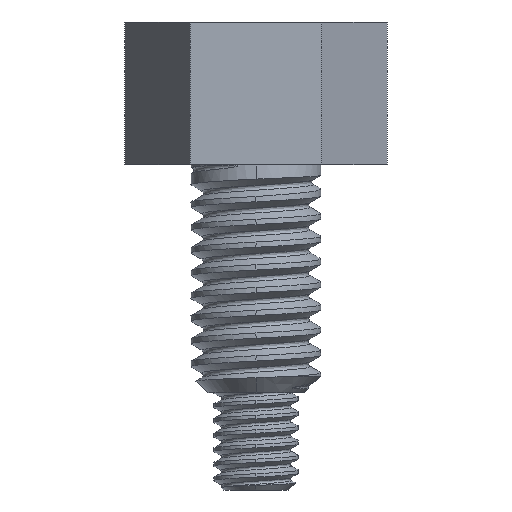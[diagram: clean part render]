
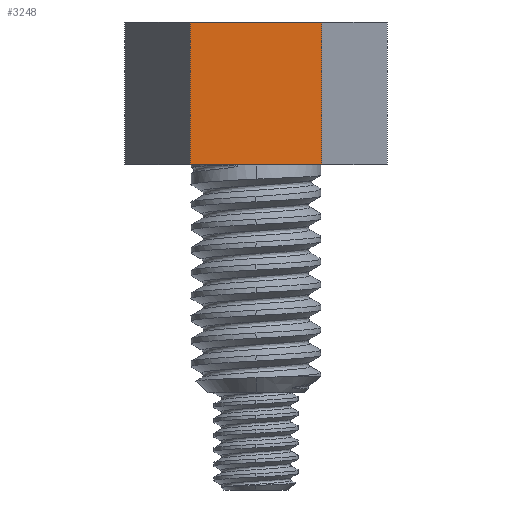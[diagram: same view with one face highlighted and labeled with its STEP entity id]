
A CAD part, left-side view. The second image highlights one B-rep face of the part: STEP entity #3248.
In plain terms, the highlighted planar face has unit normal (-1, 0, 0).
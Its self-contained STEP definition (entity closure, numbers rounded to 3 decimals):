
#284 = VECTOR ( 'NONE', #935, 1000. ) ;
#562 = LINE ( 'NONE', #2620, #1834 ) ;
#594 = AXIS2_PLACEMENT_3D ( 'NONE', #6044, #1443, #3494 ) ;
#676 = LINE ( 'NONE', #2741, #5439 ) ;
#716 = CARTESIAN_POINT ( 'NONE',  ( -3.5, -2.021, 10. ) ) ;
#822 = CARTESIAN_POINT ( 'NONE',  ( -3.5, -2.021, 14.4 ) ) ;
#935 = DIRECTION ( 'NONE',  ( 0., -1., 0. ) ) ;
#967 = CARTESIAN_POINT ( 'NONE',  ( -3.5, 2.021, 10. ) ) ;
#1000 = PLANE ( 'NONE',  #594 ) ;
#1413 = FACE_OUTER_BOUND ( 'NONE', #5418, .T. ) ;
#1443 = DIRECTION ( 'NONE',  ( 1., 0., 0. ) ) ;
#1834 = VECTOR ( 'NONE', #4679, 1000. ) ;
#2330 = VECTOR ( 'NONE', #4898, 1000. ) ;
#2620 = CARTESIAN_POINT ( 'NONE',  ( -3.5, 2.021, 14.4 ) ) ;
#2741 = CARTESIAN_POINT ( 'NONE',  ( -3.5, 2.021, 14.4 ) ) ;
#2982 = ORIENTED_EDGE ( 'NONE', *, *, #5910, .F. ) ;
#3248 = ADVANCED_FACE ( 'NONE', ( #1413 ), #1000, .F. ) ;
#3279 = DIRECTION ( 'NONE',  ( 0., 0., -1. ) ) ;
#3346 = VERTEX_POINT ( 'NONE', #822 ) ;
#3456 = LINE ( 'NONE', #967, #284 ) ;
#3494 = DIRECTION ( 'NONE',  ( 0., 1., 0. ) ) ;
#4679 = DIRECTION ( 'NONE',  ( 0., -1., 0. ) ) ;
#4690 = ORIENTED_EDGE ( 'NONE', *, *, #5208, .F. ) ;
#4898 = DIRECTION ( 'NONE',  ( 0., 0., -1. ) ) ;
#4955 = ORIENTED_EDGE ( 'NONE', *, *, #6018, .T. ) ;
#4969 = CARTESIAN_POINT ( 'NONE',  ( -3.5, 2.021, 10. ) ) ;
#5208 = EDGE_CURVE ( 'NONE', #5301, #3346, #562, .T. ) ;
#5263 = ORIENTED_EDGE ( 'NONE', *, *, #6606, .T. ) ;
#5301 = VERTEX_POINT ( 'NONE', #5468 ) ;
#5381 = VERTEX_POINT ( 'NONE', #4969 ) ;
#5418 = EDGE_LOOP ( 'NONE', ( #4955, #2982, #4690, #5263 ) ) ;
#5439 = VECTOR ( 'NONE', #3279, 1000. ) ;
#5468 = CARTESIAN_POINT ( 'NONE',  ( -3.5, 2.021, 14.4 ) ) ;
#5844 = CARTESIAN_POINT ( 'NONE',  ( -3.5, -2.021, 14.4 ) ) ;
#5910 = EDGE_CURVE ( 'NONE', #3346, #6268, #6478, .T. ) ;
#6018 = EDGE_CURVE ( 'NONE', #5381, #6268, #3456, .T. ) ;
#6044 = CARTESIAN_POINT ( 'NONE',  ( -3.5, 2.021, 14.4 ) ) ;
#6268 = VERTEX_POINT ( 'NONE', #716 ) ;
#6478 = LINE ( 'NONE', #5844, #2330 ) ;
#6606 = EDGE_CURVE ( 'NONE', #5301, #5381, #676, .T. ) ;
